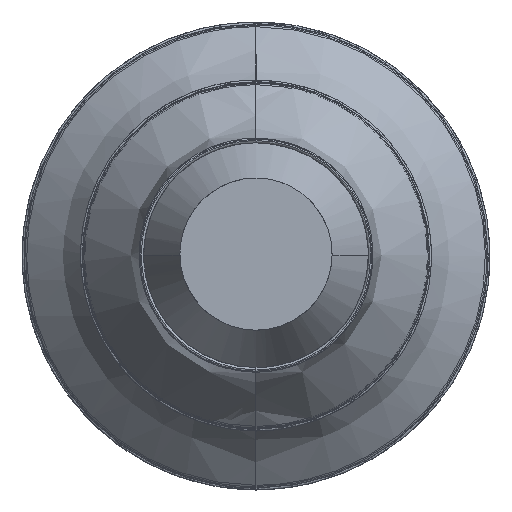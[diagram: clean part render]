
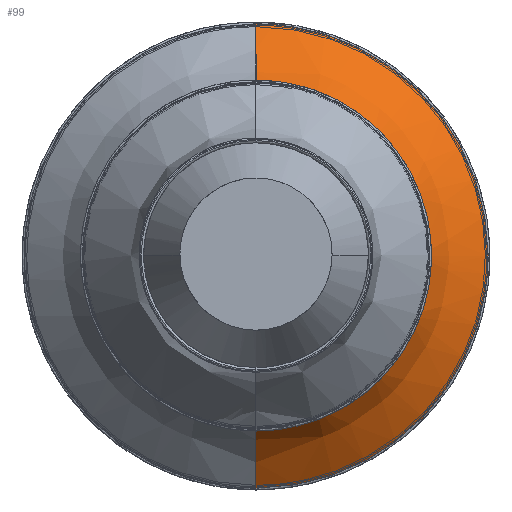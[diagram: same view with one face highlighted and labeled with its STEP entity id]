
A CAD part, top view. The second image highlights one B-rep face of the part: STEP entity #99.
In plain terms, the highlighted free-form (B-spline) face has degree [2, 2] with [3, 5] control points.
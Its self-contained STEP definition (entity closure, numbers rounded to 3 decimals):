
#99=ADVANCED_FACE($,(#190),#1173,.T.);
#190=FACE_OUTER_BOUND($,#281,.T.);
#281=EDGE_LOOP($,(#602,#603,#604,#605,#606));
#602=ORIENTED_EDGE($,*,*,#881,.F.);
#603=ORIENTED_EDGE($,*,*,#880,.T.);
#604=ORIENTED_EDGE($,*,*,#883,.T.);
#605=ORIENTED_EDGE($,*,*,#882,.T.);
#606=ORIENTED_EDGE($,*,*,#896,.F.);
#880=EDGE_CURVE($,#1050,#1052,#1336,.T.);
#881=EDGE_CURVE($,#1050,#1058,#1337,.T.);
#882=EDGE_CURVE($,#1051,#1059,#1338,.T.);
#883=EDGE_CURVE($,#1052,#1051,#1339,.T.);
#896=EDGE_CURVE($,#1058,#1059,#1352,.T.);
#1050=VERTEX_POINT($,#3251);
#1051=VERTEX_POINT($,#3252);
#1052=VERTEX_POINT($,#3253);
#1058=VERTEX_POINT($,#3259);
#1059=VERTEX_POINT($,#3260);
#1173=(
BOUNDED_SURFACE()
B_SPLINE_SURFACE(2,2,((#3177,#3178,#3179,#3180,#3181),(#3182,#3183,#3184,
#3185,#3186),(#3187,#3188,#3189,#3190,#3191)),.UNSPECIFIED.,.F.,.F.,.F.)
B_SPLINE_SURFACE_WITH_KNOTS((3,3),(3,2,3),(0.,258.983),(0.,921.657,
1843.315),.UNSPECIFIED.)
GEOMETRIC_REPRESENTATION_ITEM()
RATIONAL_B_SPLINE_SURFACE(((1.,0.707,1.,0.707,1.),
(0.816,0.577,0.816,0.577,
0.816),(0.863,0.611,0.863,
0.611,0.863)))
REPRESENTATION_ITEM($)
SURFACE()
);
#1336=(
BOUNDED_CURVE()
B_SPLINE_CURVE(2,(#2938,#2939,#2940),.UNSPECIFIED.,.F.,.F.)
B_SPLINE_CURVE_WITH_KNOTS((3,3),(0.,258.983),.UNSPECIFIED.)
CURVE()
GEOMETRIC_REPRESENTATION_ITEM()
RATIONAL_B_SPLINE_CURVE((1.,0.878,1.))
REPRESENTATION_ITEM($)
);
#1337=(
BOUNDED_CURVE()
B_SPLINE_CURVE(2,(#2941,#2942,#2943,#2944,#2945),.UNSPECIFIED.,.F.,.F.)
B_SPLINE_CURVE_WITH_KNOTS((3,2,3),(0.,921.657,1843.315),
.UNSPECIFIED.)
CURVE()
GEOMETRIC_REPRESENTATION_ITEM()
RATIONAL_B_SPLINE_CURVE((1.,0.707,1.,0.707,1.))
REPRESENTATION_ITEM($)
);
#1338=(
BOUNDED_CURVE()
B_SPLINE_CURVE(2,(#2946,#2947,#2948),.UNSPECIFIED.,.F.,.F.)
B_SPLINE_CURVE_WITH_KNOTS((3,3),(-6.283,-4.712),.UNSPECIFIED.)
CURVE()
GEOMETRIC_REPRESENTATION_ITEM()
RATIONAL_B_SPLINE_CURVE((1.,0.707,1.))
REPRESENTATION_ITEM($)
);
#1339=(
BOUNDED_CURVE()
B_SPLINE_CURVE(2,(#2949,#2950,#2951),.UNSPECIFIED.,.F.,.F.)
B_SPLINE_CURVE_WITH_KNOTS((3,3),(-1.571,0.),.UNSPECIFIED.)
CURVE()
GEOMETRIC_REPRESENTATION_ITEM()
RATIONAL_B_SPLINE_CURVE((1.,0.707,1.))
REPRESENTATION_ITEM($)
);
#1352=(
BOUNDED_CURVE()
B_SPLINE_CURVE(2,(#2998,#2999,#3000),.UNSPECIFIED.,.F.,.F.)
B_SPLINE_CURVE_WITH_KNOTS((3,3),(0.,258.983),.UNSPECIFIED.)
CURVE()
GEOMETRIC_REPRESENTATION_ITEM()
RATIONAL_B_SPLINE_CURVE((1.,0.878,1.))
REPRESENTATION_ITEM($)
);
#2938=CARTESIAN_POINT($,(10180.729,6474.751,-1158.009));
#2939=CARTESIAN_POINT($,(10180.729,6474.751,-1251.024));
#2940=CARTESIAN_POINT($,(10180.729,6396.495,-1301.298));
#2941=CARTESIAN_POINT($,(10180.729,6474.751,-1158.009));
#2942=CARTESIAN_POINT($,(10300.936,6474.751,-1158.009));
#2943=CARTESIAN_POINT($,(10300.936,6594.958,-1158.009));
#2944=CARTESIAN_POINT($,(10300.936,6715.165,-1158.009));
#2945=CARTESIAN_POINT($,(10180.729,6715.165,-1158.009));
#2946=CARTESIAN_POINT($,(10379.192,6594.958,-1301.298));
#2947=CARTESIAN_POINT($,(10379.192,6793.421,-1301.298));
#2948=CARTESIAN_POINT($,(10180.729,6793.421,-1301.298));
#2949=CARTESIAN_POINT($,(10180.729,6396.495,-1301.298));
#2950=CARTESIAN_POINT($,(10379.192,6396.495,-1301.298));
#2951=CARTESIAN_POINT($,(10379.192,6594.958,-1301.298));
#2998=CARTESIAN_POINT($,(10180.729,6715.165,-1158.009));
#2999=CARTESIAN_POINT($,(10180.729,6715.165,-1251.024));
#3000=CARTESIAN_POINT($,(10180.729,6793.421,-1301.298));
#3177=CARTESIAN_POINT($,(10180.729,6474.751,-1158.009));
#3178=CARTESIAN_POINT($,(10300.936,6474.751,-1158.009));
#3179=CARTESIAN_POINT($,(10300.936,6594.958,-1158.009));
#3180=CARTESIAN_POINT($,(10300.936,6715.165,-1158.009));
#3181=CARTESIAN_POINT($,(10180.729,6715.165,-1158.009));
#3182=CARTESIAN_POINT($,(10180.729,6474.751,-1251.024));
#3183=CARTESIAN_POINT($,(10300.936,6474.751,-1251.024));
#3184=CARTESIAN_POINT($,(10300.936,6594.958,-1251.024));
#3185=CARTESIAN_POINT($,(10300.936,6715.165,-1251.024));
#3186=CARTESIAN_POINT($,(10180.729,6715.165,-1251.024));
#3187=CARTESIAN_POINT($,(10180.729,6396.495,-1301.298));
#3188=CARTESIAN_POINT($,(10379.192,6396.495,-1301.298));
#3189=CARTESIAN_POINT($,(10379.192,6594.958,-1301.298));
#3190=CARTESIAN_POINT($,(10379.192,6793.421,-1301.298));
#3191=CARTESIAN_POINT($,(10180.729,6793.421,-1301.298));
#3251=CARTESIAN_POINT($,(10180.729,6474.751,-1158.009));
#3252=CARTESIAN_POINT($,(10379.192,6594.958,-1301.298));
#3253=CARTESIAN_POINT($,(10180.729,6396.495,-1301.298));
#3259=CARTESIAN_POINT($,(10180.729,6715.165,-1158.009));
#3260=CARTESIAN_POINT($,(10180.729,6793.421,-1301.298));
